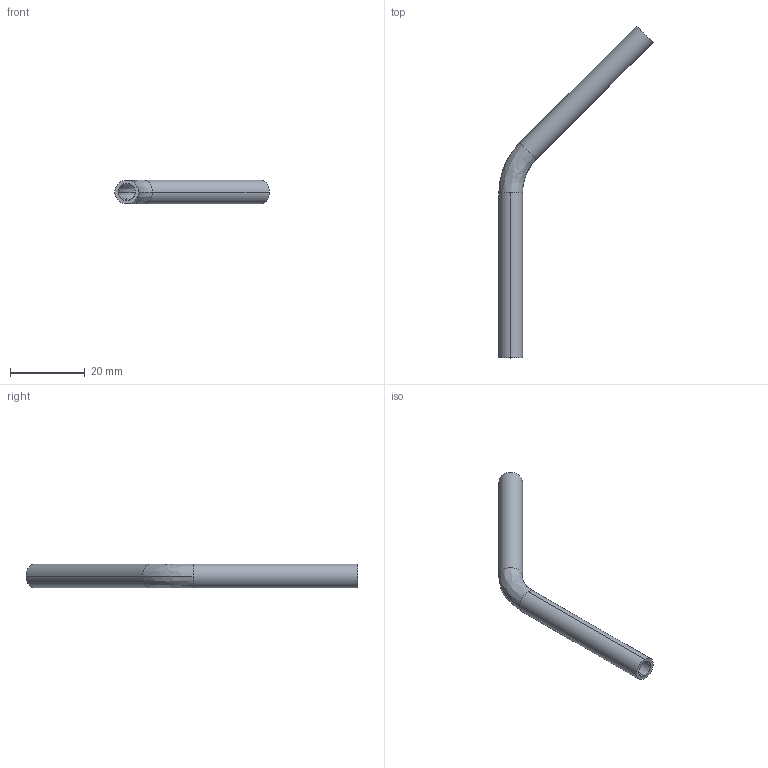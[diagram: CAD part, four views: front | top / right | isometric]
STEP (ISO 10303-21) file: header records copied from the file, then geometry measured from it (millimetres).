
FILE_DESCRIPTION (( 'STEP AP214' ), '1' );
FILE_NAME ('TE2KS6L.25-...STEP', '2016-05-22T06:42:16', ( 'eran' ), ( '' ), 'SwSTEP 2.0', 'SolidWorks 2016', '' );
FILE_SCHEMA (( 'AUTOMOTIVE_DESIGN' ));
Length unit declared in the file: millimetre
Products named in the file (1): TE2KS6L.25-..
Bounding box: 41.34 x 88.97 x 6.35 mm (x, y, z)
Volume: 1540.6 mm3; surface area: 3492.6 mm2
Topology: 1 solids, 1 shells, 14 faces, 32 edges, 20 vertices
Faces by surface type: cylinder 8, bspline 4, plane 2
Entity records: 490 total; most frequent: CARTESIAN_POINT 127, DIRECTION 78, ORIENTED_EDGE 64, AXIS2_PLACEMENT_3D 35, EDGE_CURVE 32, CIRCLE 24, VERTEX_POINT 20, EDGE_LOOP 16
